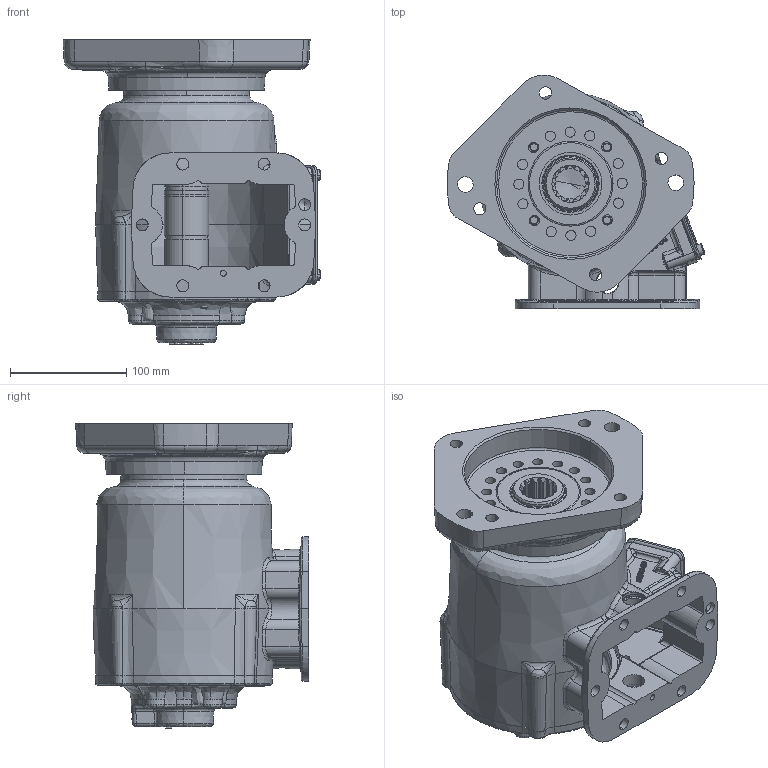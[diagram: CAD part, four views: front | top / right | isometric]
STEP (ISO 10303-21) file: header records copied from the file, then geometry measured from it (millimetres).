
FILE_DESCRIPTION (( 'STEP AP203' ), '1' );
FILE_NAME ('CS6B-A6XXX-H3EX.STEP', '2023-05-18T13:48:22', ( '' ), ( '' ), 'SwSTEP 2.0', 'SolidWorks 2021', '' );
FILE_SCHEMA (( 'CONFIG_CONTROL_DESIGN' ));
Length unit declared in the file: inch
Products named in the file (17): 24T27240; 14TA5380_Config1; 14T38719; 16T41119; 19T36174; 11T37795; 01T37072-01; 06T40205; 12T34003; 25T21684; 19T41118; 26t36175; 24T36894; 12T36471; 11T36124-1; 15T36717; CS6B-A6XXX-H3EX
Assembly tree (27 placements, depth 3):
  CS6B-A6XXX-H3EX
    01T37072-01
    16T41119
    15T36717
    12T34003
    25T21684  x4
    19T41118  x4
    19T36174  x4
    06T40205
    11T36124-1
    24T36894
    26t36175  x2
    24T27240
    12T36471  x2
    14TA5380_Config1
      14T38719
      11T37795
Bounding box: 221.65 x 200.65 x 262.09 mm (x, y, z)
Volume: 1814509.6 mm3; surface area: 474534 mm2
Topology: 26 solids, 27 shells, 2767 faces, 7073 edges, 4426 vertices
Faces by surface type: bspline 1020, plane 639, cylinder 637, cone 345, torus 113, sphere 13
Entity records: 146678 total; most frequent: CARTESIAN_POINT 89685, ORIENTED_EDGE 13076, DIRECTION 8603, EDGE_CURVE 6538, VERTEX_POINT 4143, AXIS2_PLACEMENT_3D 3169, EDGE_LOOP 2813, B_SPLINE_CURVE_WITH_KNOTS 2585
